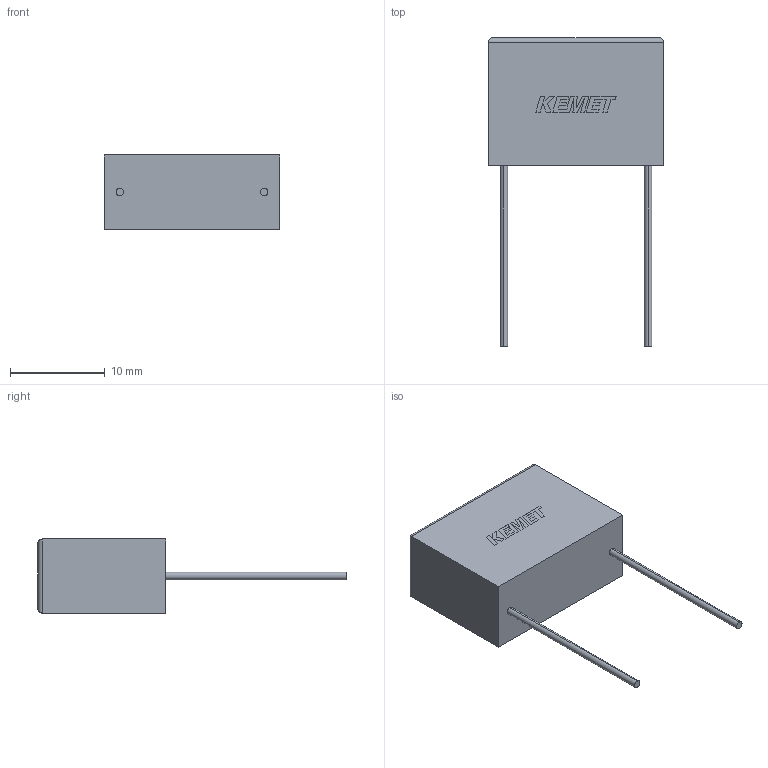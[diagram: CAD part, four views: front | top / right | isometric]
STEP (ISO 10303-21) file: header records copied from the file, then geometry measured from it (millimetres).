
FILE_DESCRIPTION (( 'STEP AP214' ), '1' );
FILE_NAME ('CFR_MOLDED_18.5X13.5X7.8_L18.5H13.5T7.8S15.20H019F0.80.STEP', '2019-06-07T15:23:44', ( '' ), ( '' ), 'SwSTEP 2.0', 'SolidWorks 2014', '' );
FILE_SCHEMA (( 'AUTOMOTIVE_DESIGN' ));
Length unit declared in the file: millimetre
Products named in the file (1): CFR_MOLDED_18.5X13.5X7.8_L18.5H13.5T7.8S15.20H019F0.80
Bounding box: 18.5 x 32.5 x 7.8 mm (x, y, z)
Volume: 1964.4 mm3; surface area: 1099.3 mm2
Topology: 4 solids, 4 shells, 73 faces, 185 edges, 122 vertices
Faces by surface type: plane 65, cylinder 8
Entity records: 2392 total; most frequent: CARTESIAN_POINT 393, ORIENTED_EDGE 370, DIRECTION 337, EDGE_CURVE 185, VECTOR 173, LINE 173, VERTEX_POINT 122, AXIS2_PLACEMENT_3D 82
